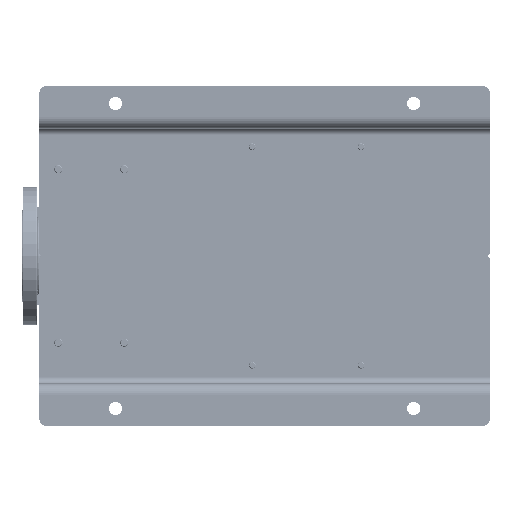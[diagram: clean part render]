
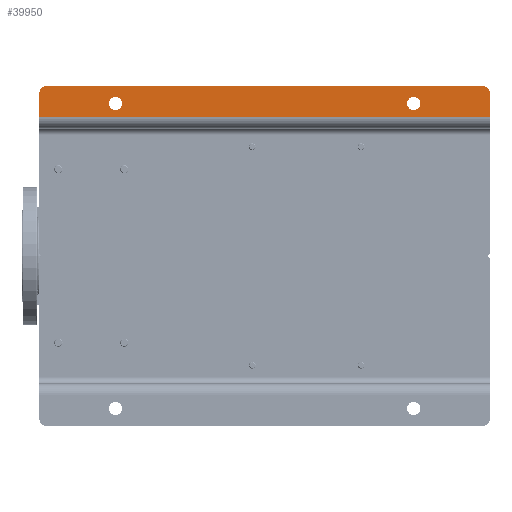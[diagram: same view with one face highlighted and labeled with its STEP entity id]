
A CAD part, front view. The second image highlights one B-rep face of the part: STEP entity #39950.
In plain terms, the highlighted planar face has unit normal (0, -1, 0).
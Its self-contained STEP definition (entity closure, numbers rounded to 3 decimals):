
#8953 = CARTESIAN_POINT ( 'NONE',  ( 490., 0., -650. ) ) ;
#9566 = DIRECTION ( 'NONE',  ( 0., -1., 0. ) ) ;
#11877 = EDGE_CURVE ( 'NONE', #113731, #163915, #147476, .T. ) ;
#13033 = CARTESIAN_POINT ( 'NONE',  ( 455.5, 0., -540. ) ) ;
#14483 = ORIENTED_EDGE ( 'NONE', *, *, #85530, .T. ) ;
#15906 = ORIENTED_EDGE ( 'NONE', *, *, #131034, .F. ) ;
#25048 = LINE ( 'NONE', #89004, #73345 ) ;
#26347 = DIRECTION ( 'NONE',  ( 0., 1., 0. ) ) ;
#28504 = DIRECTION ( 'NONE',  ( 0., -1., 0. ) ) ;
#29351 = CARTESIAN_POINT ( 'NONE',  ( 429., 0., -650. ) ) ;
#33668 = VERTEX_POINT ( 'NONE', #87764 ) ;
#37035 = AXIS2_PLACEMENT_3D ( 'NONE', #208277, #28504, #127708 ) ;
#38926 = CARTESIAN_POINT ( 'NONE',  ( 480., 0., 0. ) ) ;
#39950 = ADVANCED_FACE ( 'NONE', ( #161698, #93350, #160629 ), #45921, .T. ) ;
#43533 = AXIS2_PLACEMENT_3D ( 'NONE', #203875, #193860, #209317 ) ;
#44243 = LINE ( 'NONE', #8953, #100244 ) ;
#44313 = DIRECTION ( 'NONE',  ( 0., 1., 0. ) ) ;
#45921 = PLANE ( 'NONE',  #134932 ) ;
#51214 = CARTESIAN_POINT ( 'NONE',  ( 445., 0., 0. ) ) ;
#59024 = CARTESIAN_POINT ( 'NONE',  ( 474.5, 0., -540. ) ) ;
#61427 = ORIENTED_EDGE ( 'NONE', *, *, #108794, .T. ) ;
#62948 = DIRECTION ( 'NONE',  ( 0., 0., 1. ) ) ;
#64489 = AXIS2_PLACEMENT_3D ( 'NONE', #210385, #130895, #143126 ) ;
#66333 = VERTEX_POINT ( 'NONE', #123987 ) ;
#70959 = ORIENTED_EDGE ( 'NONE', *, *, #167432, .T. ) ;
#72848 = DIRECTION ( 'NONE',  ( 1., 0., 0. ) ) ;
#73345 = VECTOR ( 'NONE', #92272, 1000. ) ;
#74137 = AXIS2_PLACEMENT_3D ( 'NONE', #142105, #26347, #177375 ) ;
#75891 = CARTESIAN_POINT ( 'NONE',  ( 480., 0., -640. ) ) ;
#76995 = AXIS2_PLACEMENT_3D ( 'NONE', #195307, #44313, #111487 ) ;
#77703 = CIRCLE ( 'NONE', #74137, 9.5 ) ;
#85524 = EDGE_CURVE ( 'NONE', #134694, #33668, #191210, .T. ) ;
#85530 = EDGE_CURVE ( 'NONE', #163915, #113731, #180601, .T. ) ;
#87764 = CARTESIAN_POINT ( 'NONE',  ( 490., 0., -640. ) ) ;
#89004 = CARTESIAN_POINT ( 'NONE',  ( 429., 0., -650. ) ) ;
#92272 = DIRECTION ( 'NONE',  ( 1., 0., 0. ) ) ;
#92853 = VERTEX_POINT ( 'NONE', #38926 ) ;
#93350 = FACE_BOUND ( 'NONE', #215328, .T. ) ;
#100244 = VECTOR ( 'NONE', #62948, 1000. ) ;
#101626 = EDGE_CURVE ( 'NONE', #66333, #163564, #187953, .T. ) ;
#103558 = CARTESIAN_POINT ( 'NONE',  ( 455.5, 0., -110. ) ) ;
#106938 = LINE ( 'NONE', #210586, #117094 ) ;
#108794 = EDGE_CURVE ( 'NONE', #159032, #134694, #25048, .T. ) ;
#109253 = VERTEX_POINT ( 'NONE', #134306 ) ;
#111487 = DIRECTION ( 'NONE',  ( 0., 0., -1. ) ) ;
#113731 = VERTEX_POINT ( 'NONE', #59024 ) ;
#113775 = ORIENTED_EDGE ( 'NONE', *, *, #101626, .T. ) ;
#114861 = LINE ( 'NONE', #177817, #199899 ) ;
#117094 = VECTOR ( 'NONE', #72848, 1000. ) ;
#123987 = CARTESIAN_POINT ( 'NONE',  ( 474.5, 0., -110. ) ) ;
#127708 = DIRECTION ( 'NONE',  ( 0., 0., -1. ) ) ;
#130895 = DIRECTION ( 'NONE',  ( 0., 1., 0. ) ) ;
#131034 = EDGE_CURVE ( 'NONE', #168365, #92853, #106938, .T. ) ;
#131102 = ORIENTED_EDGE ( 'NONE', *, *, #11877, .T. ) ;
#134306 = CARTESIAN_POINT ( 'NONE',  ( 490., 0., -10. ) ) ;
#134694 = VERTEX_POINT ( 'NONE', #190839 ) ;
#134932 = AXIS2_PLACEMENT_3D ( 'NONE', #29351, #9566, #194760 ) ;
#136090 = ORIENTED_EDGE ( 'NONE', *, *, #85524, .T. ) ;
#139932 = ORIENTED_EDGE ( 'NONE', *, *, #199057, .T. ) ;
#142105 = CARTESIAN_POINT ( 'NONE',  ( 465., 0., -110. ) ) ;
#143126 = DIRECTION ( 'NONE',  ( 0., 0., -1. ) ) ;
#147476 = CIRCLE ( 'NONE', #76995, 9.5 ) ;
#153960 = EDGE_LOOP ( 'NONE', ( #15906, #70959, #61427, #136090, #158781, #162927 ) ) ;
#157312 = CARTESIAN_POINT ( 'NONE',  ( 445., 0., -650. ) ) ;
#158781 = ORIENTED_EDGE ( 'NONE', *, *, #163179, .T. ) ;
#159032 = VERTEX_POINT ( 'NONE', #157312 ) ;
#159564 = AXIS2_PLACEMENT_3D ( 'NONE', #75891, #161834, #163993 ) ;
#160629 = FACE_OUTER_BOUND ( 'NONE', #153960, .T. ) ;
#161698 = FACE_BOUND ( 'NONE', #190580, .T. ) ;
#161834 = DIRECTION ( 'NONE',  ( 0., -1., 0. ) ) ;
#162927 = ORIENTED_EDGE ( 'NONE', *, *, #163701, .T. ) ;
#163179 = EDGE_CURVE ( 'NONE', #33668, #109253, #44243, .T. ) ;
#163564 = VERTEX_POINT ( 'NONE', #103558 ) ;
#163701 = EDGE_CURVE ( 'NONE', #109253, #92853, #202574, .T. ) ;
#163915 = VERTEX_POINT ( 'NONE', #13033 ) ;
#163993 = DIRECTION ( 'NONE',  ( 0., 0., -1. ) ) ;
#167432 = EDGE_CURVE ( 'NONE', #168365, #159032, #114861, .T. ) ;
#168365 = VERTEX_POINT ( 'NONE', #51214 ) ;
#177375 = DIRECTION ( 'NONE',  ( 0., 0., -1. ) ) ;
#177817 = CARTESIAN_POINT ( 'NONE',  ( 445., 0., -650. ) ) ;
#180601 = CIRCLE ( 'NONE', #64489, 9.5 ) ;
#182129 = DIRECTION ( 'NONE',  ( 0., 0., -1. ) ) ;
#187953 = CIRCLE ( 'NONE', #43533, 9.5 ) ;
#190580 = EDGE_LOOP ( 'NONE', ( #139932, #113775 ) ) ;
#190839 = CARTESIAN_POINT ( 'NONE',  ( 480., 0., -650. ) ) ;
#191210 = CIRCLE ( 'NONE', #159564, 10. ) ;
#193860 = DIRECTION ( 'NONE',  ( 0., 1., 0. ) ) ;
#194760 = DIRECTION ( 'NONE',  ( 0., 0., -1. ) ) ;
#195307 = CARTESIAN_POINT ( 'NONE',  ( 465., 0., -540. ) ) ;
#199057 = EDGE_CURVE ( 'NONE', #163564, #66333, #77703, .T. ) ;
#199899 = VECTOR ( 'NONE', #182129, 1000. ) ;
#202574 = CIRCLE ( 'NONE', #37035, 10. ) ;
#203875 = CARTESIAN_POINT ( 'NONE',  ( 465., 0., -110. ) ) ;
#208277 = CARTESIAN_POINT ( 'NONE',  ( 480., 0., -10. ) ) ;
#209317 = DIRECTION ( 'NONE',  ( 0., 0., -1. ) ) ;
#210385 = CARTESIAN_POINT ( 'NONE',  ( 465., 0., -540. ) ) ;
#210586 = CARTESIAN_POINT ( 'NONE',  ( 429., 0., 0. ) ) ;
#215328 = EDGE_LOOP ( 'NONE', ( #14483, #131102 ) ) ;
